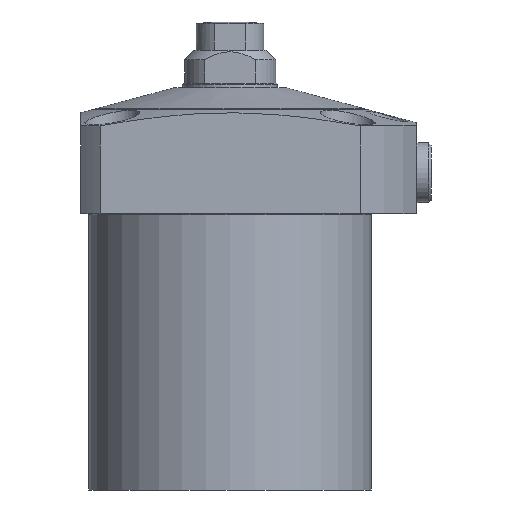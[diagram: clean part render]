
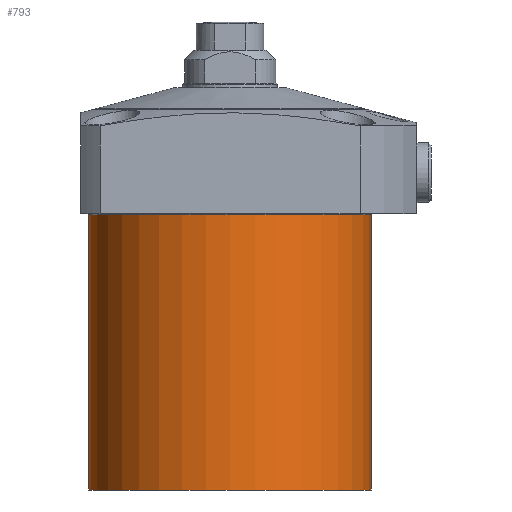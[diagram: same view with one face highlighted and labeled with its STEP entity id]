
A CAD part, front view. The second image highlights one B-rep face of the part: STEP entity #793.
In plain terms, the highlighted cylindrical face has radius 45 mm (diameter 90 mm), a partial arc.
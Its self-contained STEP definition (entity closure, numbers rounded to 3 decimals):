
#585=CYLINDRICAL_SURFACE('',#2558,45.);
#793=ADVANCED_FACE('',(#924),#585,.T.);
#924=FACE_OUTER_BOUND('',#1041,.T.);
#1041=EDGE_LOOP('',(#1661,#1662,#1663,#1664));
#1185=LINE('',#3727,#1309);
#1186=LINE('',#3729,#1310);
#1309=VECTOR('',#2956,1.);
#1310=VECTOR('',#2959,1.);
#1661=ORIENTED_EDGE('',*,*,#2193,.F.);
#1662=ORIENTED_EDGE('',*,*,#2238,.T.);
#1663=ORIENTED_EDGE('',*,*,#2195,.T.);
#1664=ORIENTED_EDGE('',*,*,#2188,.T.);
#1990=VERTEX_POINT('',#3716);
#1991=VERTEX_POINT('',#3717);
#1994=VERTEX_POINT('',#3725);
#1995=VERTEX_POINT('',#3726);
#2188=EDGE_CURVE('',#1990,#1991,#2357,.T.);
#2193=EDGE_CURVE('',#1995,#1991,#1185,.T.);
#2195=EDGE_CURVE('',#1994,#1990,#1186,.T.);
#2238=EDGE_CURVE('',#1995,#1994,#2378,.T.);
#2357=CIRCLE('',#2522,45.);
#2378=CIRCLE('',#2556,45.);
#2522=AXIS2_PLACEMENT_3D('',#3715,#2944,#2945);
#2556=AXIS2_PLACEMENT_3D('',#3935,#3028,#3029);
#2558=AXIS2_PLACEMENT_3D('',#3937,#3032,#3033);
#2944=DIRECTION('',(0.,0.,-1.));
#2945=DIRECTION('',(-1.,0.,0.));
#2956=DIRECTION('',(0.,0.,1.));
#2959=DIRECTION('',(0.,0.,1.));
#3028=DIRECTION('',(0.,0.,1.));
#3029=DIRECTION('',(1.,0.,0.));
#3032=DIRECTION('',(0.,0.,1.));
#3033=DIRECTION('',(-1.,0.,0.));
#3715=CARTESIAN_POINT('',(0.,0.,-0.4));
#3716=CARTESIAN_POINT('',(45.,0.,-0.4));
#3717=CARTESIAN_POINT('',(-45.,0.,-0.4));
#3725=CARTESIAN_POINT('',(45.,0.,-88.));
#3726=CARTESIAN_POINT('',(-45.,0.,-88.));
#3727=CARTESIAN_POINT('',(-45.,0.,100.));
#3729=CARTESIAN_POINT('',(45.,0.,100.));
#3935=CARTESIAN_POINT('',(0.,0.,-88.));
#3937=CARTESIAN_POINT('',(0.,0.,100.));
